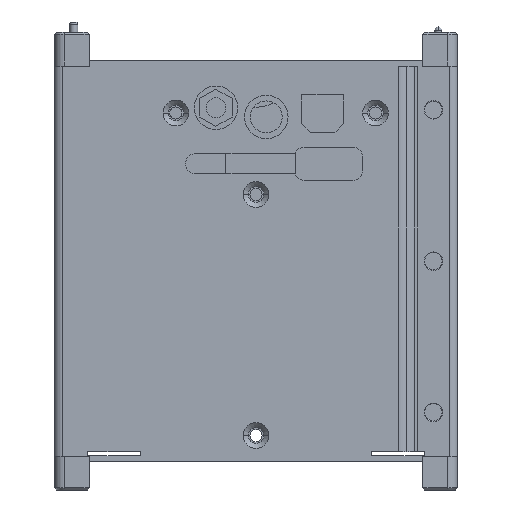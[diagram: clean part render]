
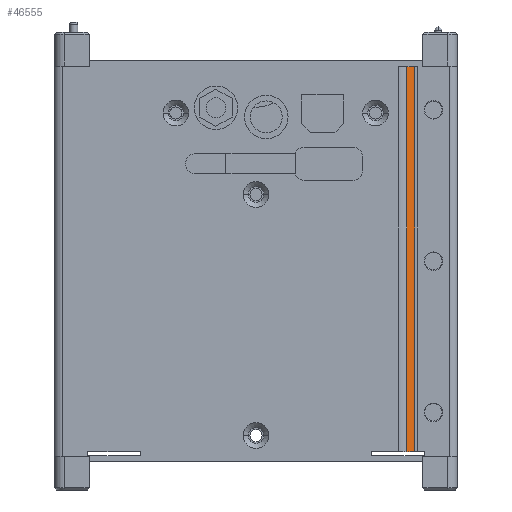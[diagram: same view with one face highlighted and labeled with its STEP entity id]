
A CAD part, left-side view. The second image highlights one B-rep face of the part: STEP entity #46555.
In plain terms, the highlighted cylindrical face has radius 3.259 mm (diameter 6.518 mm), a partial arc.
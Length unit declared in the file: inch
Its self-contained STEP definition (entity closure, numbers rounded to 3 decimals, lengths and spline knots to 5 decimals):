
#2094 = DIRECTION ( 'NONE',  ( 0., 0., -1. ) ) ;
#2095 = CARTESIAN_POINT ( 'NONE',  ( -2.04282, -1.5498, -3.81732 ) ) ;
#2345 = DIRECTION ( 'NONE',  ( 1., 0., 0. ) ) ;
#2412 = DIRECTION ( 'NONE',  ( 0., -1., 0. ) ) ;
#2413 = DIRECTION ( 'NONE',  ( 0., 0., 1. ) ) ;
#2414 = CARTESIAN_POINT ( 'NONE',  ( -2.04282, -1.5498, -10.82759 ) ) ;
#2415 = AXIS2_PLACEMENT_3D ( 'NONE', #2414, #2413, #2412 ) ;
#2417 = CYLINDRICAL_SURFACE ( 'NONE', #2415, 0.12832 ) ;
#2422 = FACE_OUTER_BOUND ( 'NONE', #46557, .T. ) ;
#2487 = DIRECTION ( 'NONE',  ( 0., 0., 1. ) ) ;
#2488 = VECTOR ( 'NONE', #2487, 39.37008 ) ;
#2489 = CARTESIAN_POINT ( 'NONE',  ( -1.9145, -1.5498, -3.91736 ) ) ;
#2490 = LINE ( 'NONE', #2489, #2488 ) ;
#2540 = DIRECTION ( 'NONE',  ( 0., 0., 1. ) ) ;
#2541 = VECTOR ( 'NONE', #2540, 39.37008 ) ;
#2542 = CARTESIAN_POINT ( 'NONE',  ( -1.9415, -1.47106, -3.85732 ) ) ;
#2543 = LINE ( 'NONE', #2542, #2541 ) ;
#2551 = CARTESIAN_POINT ( 'NONE',  ( -1.9415, -1.47106, -3.81732 ) ) ;
#2602 = AXIS2_PLACEMENT_3D ( 'NONE', #2095, #2094, #2345 ) ;
#2603 = CIRCLE ( 'NONE', #2602, 0.12832 ) ;
#2662 = CARTESIAN_POINT ( 'NONE',  ( -1.9145, -1.5498, -3.81732 ) ) ;
#21119 = DIRECTION ( 'NONE',  ( 0., -1., 0. ) ) ;
#21120 = DIRECTION ( 'NONE',  ( 0., 0., 1. ) ) ;
#21121 = CARTESIAN_POINT ( 'NONE',  ( -2.04282, -1.5498, -0.06 ) ) ;
#21122 = AXIS2_PLACEMENT_3D ( 'NONE', #21121, #21120, #21119 ) ;
#21123 = CIRCLE ( 'NONE', #21122, 0.12832 ) ;
#21193 = CARTESIAN_POINT ( 'NONE',  ( -1.9145, -1.5498, -0.06 ) ) ;
#21194 = CARTESIAN_POINT ( 'NONE',  ( -1.9415, -1.47106, -0.06 ) ) ;
#46555 = ADVANCED_FACE ( 'NONE', ( #2422 ), #2417, .F. ) ;
#46557 = EDGE_LOOP ( 'NONE', ( #46559, #46561, #46678, #46599 ) ) ;
#46559 = ORIENTED_EDGE ( 'NONE', *, *, #46631, .F. ) ;
#46561 = ORIENTED_EDGE ( 'NONE', *, *, #46674, .T. ) ;
#46597 = EDGE_CURVE ( 'NONE', #46675, #55139, #2490, .T. ) ;
#46599 = ORIENTED_EDGE ( 'NONE', *, *, #55073, .T. ) ;
#46625 = VERTEX_POINT ( 'NONE', #2551 ) ;
#46631 = EDGE_CURVE ( 'NONE', #46625, #55137, #2543, .T. ) ;
#46674 = EDGE_CURVE ( 'NONE', #46625, #46675, #2603, .T. ) ;
#46675 = VERTEX_POINT ( 'NONE', #2662 ) ;
#46678 = ORIENTED_EDGE ( 'NONE', *, *, #46597, .T. ) ;
#55073 = EDGE_CURVE ( 'NONE', #55139, #55137, #21123, .T. ) ;
#55137 = VERTEX_POINT ( 'NONE', #21194 ) ;
#55139 = VERTEX_POINT ( 'NONE', #21193 ) ;
